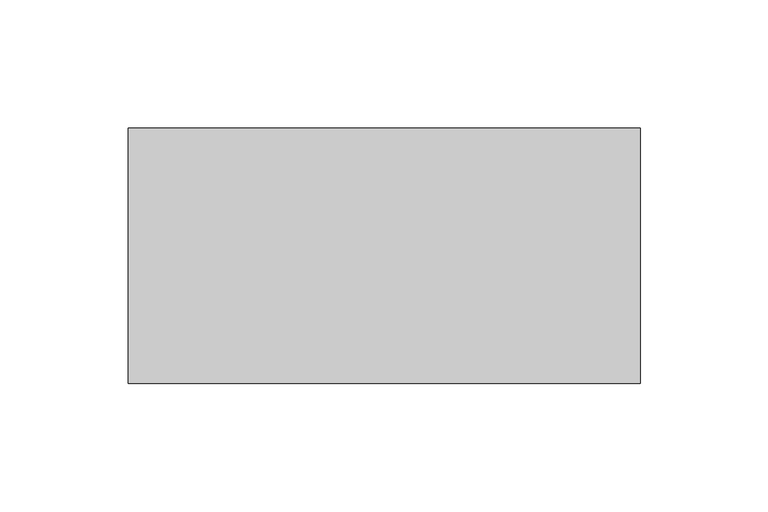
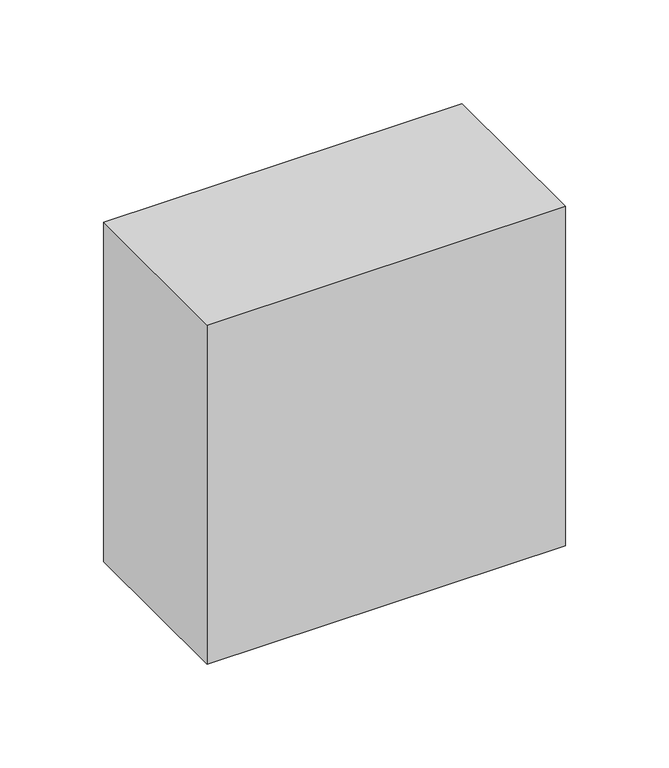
"""IFC4 building model written with IfcOpenShell, lengths in millimetres: proxy geometry, Brandspjäll BBS : Brandspjäll BBS."""

from ifc_helpers import new_model, si_unit, frame, origin, place, context, project, spatial, polyline, outline, extrude, source, transform, mapped, element, save


def specialty_equipment_76ab51bc(model_context):
    return source(origin(), model_context, "Body", "SweptSolid", [
        extrude(outline(polyline([(100.0, 50.0), (100.0, -50.0), (-100.0, -50.0), (-100.0, 50.0), (100.0, 50.0)])), frame((0.0, 0.0, 1300.0), z_axis=(0.0, 0.0, 1.0), x_axis=(1.0, 0.0, 0.0)), (0.0, 0.0, 1.0), 200.0),
    ])


if __name__ == "__main__":
    model = new_model("IFC4")
    model_context = context("Model", 3, world=origin())
    ifc_project = project(units=[si_unit("LENGTHUNIT", "METRE", prefix="MILLI")], contexts=[model_context])
    site = spatial("IfcSite", under=ifc_project)
    building = spatial("IfcBuilding", under=site)
    placement = place(None, origin())
    specialty_equipment_shape = specialty_equipment_76ab51bc(model_context)
    element("IfcBuildingElementProxy", 1, Name="Brandspjäll BBS : Brandspjäll BBS", ObjectType="Brandspjäll BBS : Brandspjäll BBS", at=placement, inside=building, context=model_context, shape_type="MappedRepresentation", body=[
        mapped(specialty_equipment_shape, transform((0.0, 0.0, 0.0), x_axis=(1.0, 0.0, 0.0), y_axis=(0.0, 1.0, 0.0), z_axis=(0.0, 0.0, 1.0))),
    ])
    save(model, "model.ifc")
